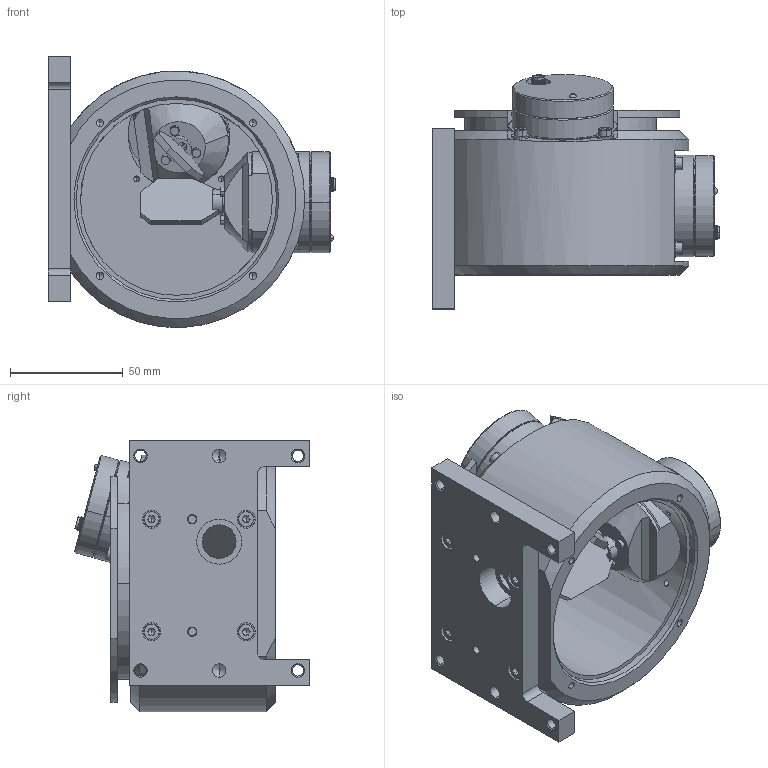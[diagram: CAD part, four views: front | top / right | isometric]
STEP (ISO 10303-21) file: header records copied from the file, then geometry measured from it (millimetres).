
FILE_DESCRIPTION (( 'STEP AP214' ), '1' );
FILE_NAME ('MSA_A15.STEP', '2019-06-06T11:27:18', ( '' ), ( '' ), 'SwSTEP 2.0', 'SolidWorks 2011', '' );
FILE_SCHEMA (( 'AUTOMOTIVE_DESIGN' ));
Length unit declared in the file: millimetre
Products named in the file (14): parallel pin hardened_iso_Parallel Pin ISO 8734 - 4 x 10 - A - St; socket head cap screw_iso_ISO 4762 M3 x 8 --- 8N; plain washer 10673 type snl_iso_ISO 10673-3.2-N; socket head cap screw_iso_ISO 4762 M4 x 12 --- 12N; rhothor_montage_plaat_Draw01_3; RTAY_A15; A15_MirrorY; RTAX_A15; socket head cap screw_iso_ISO 4762 M2 x 5 --- 5N; A15_MirrorX; Scanner_Draw10_4; Scanner_Solid; rhothor_motorblok_A15_Draw03_3; MSA_A15
Assembly tree (36 placements, depth 3):
  MSA_A15
    socket head cap screw_iso_ISO 4762 M3 x 8 --- 8N  x8
    RTAX_A15
      socket head cap screw_iso_ISO 4762 M2 x 5 --- 5N  x2
      A15_MirrorX
      Scanner_Draw10_4
      Scanner_Solid
    parallel pin hardened_iso_Parallel Pin ISO 8734 - 4 x 10 - A - St  x2
    rhothor_montage_plaat_Draw01_3
    rhothor_motorblok_A15_Draw03_3
    socket head cap screw_iso_ISO 4762 M4 x 12 --- 12N  x4
    plain washer 10673 type snl_iso_ISO 10673-3.2-N  x8
    RTAY_A15
      socket head cap screw_iso_ISO 4762 M2 x 5 --- 5N  x2
      Scanner_Draw10_4
      Scanner_Solid
      A15_MirrorY
Bounding box: 127.83 x 104.16 x 120.42 mm (x, y, z)
Volume: 487015.7 mm3; surface area: 110269.5 mm2
Topology: 34 solids, 34 shells, 956 faces, 2151 edges, 1286 vertices
Faces by surface type: plane 392, cylinder 294, cone 190, torus 80
Entity records: 14870 total; most frequent: CARTESIAN_POINT 2771, DIRECTION 2289, ORIENTED_EDGE 1944, EDGE_CURVE 972, AXIS2_PLACEMENT_3D 913, VERTEX_POINT 609, EDGE_LOOP 517, VECTOR 463
